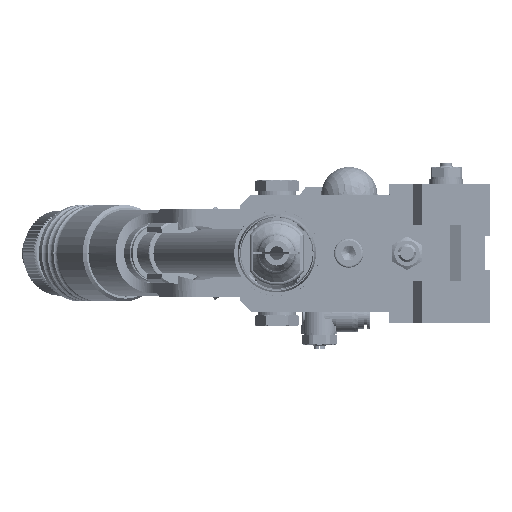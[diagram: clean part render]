
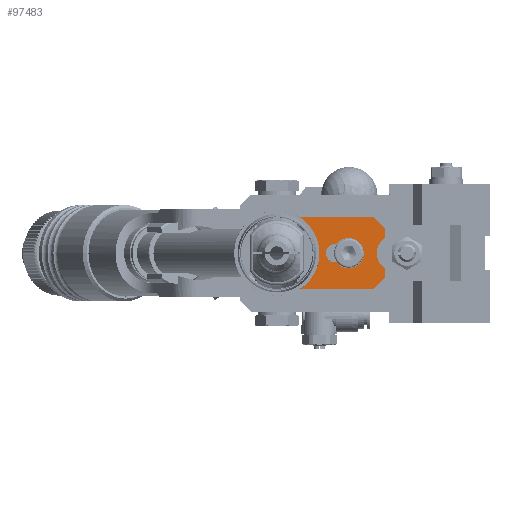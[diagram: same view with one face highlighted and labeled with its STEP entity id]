
A CAD part, left-side view. The second image highlights one B-rep face of the part: STEP entity #97483.
In plain terms, the highlighted planar face has unit normal (-1, 0, 0).
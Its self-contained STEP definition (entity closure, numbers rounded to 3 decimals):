
#4089=PLANE('',#105315);
#4994=FACE_BOUND('',#33514,.T.);
#5340=CIRCLE('',#98480,16.5);
#8481=CIRCLE('',#105295,8.);
#8483=CIRCLE('',#105299,4.1);
#8486=CIRCLE('',#105316,6.75);
#14862=LINE('',#339469,#21482);
#14867=LINE('',#339477,#21487);
#14869=LINE('',#339481,#21489);
#14872=LINE('',#339489,#21492);
#14878=LINE('',#339505,#21498);
#14880=LINE('',#339509,#21500);
#14884=LINE('',#339516,#21504);
#14889=LINE('',#339529,#21509);
#14898=LINE('',#339546,#21518);
#14901=LINE('',#339555,#21521);
#21482=VECTOR('',#126750,10.);
#21487=VECTOR('',#126757,10.);
#21489=VECTOR('',#126761,10.);
#21492=VECTOR('',#126770,10.);
#21498=VECTOR('',#126784,10.);
#21500=VECTOR('',#126788,10.);
#21504=VECTOR('',#126796,10.);
#21509=VECTOR('',#126809,10.);
#21518=VECTOR('',#126826,10.);
#21521=VECTOR('',#126839,10.);
#27960=FACE_OUTER_BOUND('',#33513,.T.);
#33513=EDGE_LOOP('',(#84470,#84471,#84472,#84473,#84474,#84475,#84476,#84477,
#84478,#84479));
#33514=EDGE_LOOP('',(#84480,#84481,#84482,#84483));
#36676=VERTEX_POINT('',#132066);
#36678=VERTEX_POINT('',#132070);
#44624=VERTEX_POINT('',#339466);
#44625=VERTEX_POINT('',#339468);
#44627=VERTEX_POINT('',#339475);
#44628=VERTEX_POINT('',#339480);
#44629=VERTEX_POINT('',#339484);
#44630=VERTEX_POINT('',#339488);
#44633=VERTEX_POINT('',#339495);
#44634=VERTEX_POINT('',#339497);
#44636=VERTEX_POINT('',#339504);
#44637=VERTEX_POINT('',#339508);
#44642=VERTEX_POINT('',#339528);
#44647=VERTEX_POINT('',#339553);
#46236=EDGE_CURVE('',#36678,#36676,#5340,.T.);
#58103=EDGE_CURVE('',#44624,#44625,#14862,.T.);
#58108=EDGE_CURVE('',#44627,#44624,#14867,.T.);
#58110=EDGE_CURVE('',#44628,#44627,#14869,.T.);
#58112=EDGE_CURVE('',#44629,#44628,#8481,.T.);
#58114=EDGE_CURVE('',#44630,#44629,#14872,.T.);
#58118=EDGE_CURVE('',#44634,#44633,#8483,.T.);
#58122=EDGE_CURVE('',#44636,#44634,#14878,.T.);
#58124=EDGE_CURVE('',#36676,#44637,#14880,.T.);
#58128=EDGE_CURVE('',#44625,#36678,#14884,.T.);
#58134=EDGE_CURVE('',#44637,#44642,#14889,.T.);
#58144=EDGE_CURVE('',#44642,#44630,#14898,.T.);
#58147=EDGE_CURVE('',#44647,#44636,#8486,.T.);
#58148=EDGE_CURVE('',#44633,#44647,#14901,.T.);
#84470=ORIENTED_EDGE('',*,*,#58124,.F.);
#84471=ORIENTED_EDGE('',*,*,#46236,.F.);
#84472=ORIENTED_EDGE('',*,*,#58128,.F.);
#84473=ORIENTED_EDGE('',*,*,#58103,.F.);
#84474=ORIENTED_EDGE('',*,*,#58108,.F.);
#84475=ORIENTED_EDGE('',*,*,#58110,.F.);
#84476=ORIENTED_EDGE('',*,*,#58112,.F.);
#84477=ORIENTED_EDGE('',*,*,#58114,.F.);
#84478=ORIENTED_EDGE('',*,*,#58144,.F.);
#84479=ORIENTED_EDGE('',*,*,#58134,.F.);
#84480=ORIENTED_EDGE('',*,*,#58147,.T.);
#84481=ORIENTED_EDGE('',*,*,#58122,.T.);
#84482=ORIENTED_EDGE('',*,*,#58118,.T.);
#84483=ORIENTED_EDGE('',*,*,#58148,.T.);
#97483=ADVANCED_FACE('',(#27960,#4994),#4089,.T.);
#98480=AXIS2_PLACEMENT_3D('',#132588,#107539,#107540);
#105295=AXIS2_PLACEMENT_3D('',#339485,#126765,#126766);
#105299=AXIS2_PLACEMENT_3D('',#339498,#126777,#126778);
#105315=AXIS2_PLACEMENT_3D('',#339552,#126835,#126836);
#105316=AXIS2_PLACEMENT_3D('',#339554,#126837,#126838);
#107539=DIRECTION('center_axis',(-1.,0.,0.));
#107540=DIRECTION('ref_axis',(0.,-0.485,-0.875));
#126750=DIRECTION('',(0.,1.,0.));
#126757=DIRECTION('',(0.,0.707,-0.707));
#126761=DIRECTION('',(0.,0.,-1.));
#126765=DIRECTION('center_axis',(-1.,0.,0.));
#126766=DIRECTION('ref_axis',(0.,0.562,0.827));
#126770=DIRECTION('',(0.,0.,-1.));
#126777=DIRECTION('center_axis',(1.,0.,0.));
#126778=DIRECTION('ref_axis',(0.,0.,
1.));
#126784=DIRECTION('',(0.,1.,0.));
#126788=DIRECTION('',(0.,0.,1.));
#126796=DIRECTION('',(0.,0.,1.));
#126809=DIRECTION('',(0.,-1.,0.));
#126826=DIRECTION('',(0.,-0.707,-0.707));
#126835=DIRECTION('center_axis',(-1.,0.,0.));
#126836=DIRECTION('ref_axis',(0.,0.,
1.));
#126837=DIRECTION('center_axis',(1.,0.,0.));
#126838=DIRECTION('ref_axis',(0.,0.,
-1.));
#126839=DIRECTION('',(0.,-1.,0.));
#132066=CARTESIAN_POINT('',(-10.,-8.,14.431));
#132070=CARTESIAN_POINT('',(-10.,-8.,-14.431));
#132588=CARTESIAN_POINT('Origin',(-10.,0.,
0.));
#339466=CARTESIAN_POINT('',(-10.,-43.,-16.));
#339468=CARTESIAN_POINT('',(-10.,-8.,-16.));
#339469=CARTESIAN_POINT('',(-10.,-43.,-16.));
#339475=CARTESIAN_POINT('',(-10.,-48.,-11.));
#339477=CARTESIAN_POINT('',(-10.,-48.,-11.));
#339480=CARTESIAN_POINT('',(-10.,-48.,-6.614));
#339481=CARTESIAN_POINT('',(-10.,-48.,-6.614));
#339484=CARTESIAN_POINT('',(-10.,-48.,6.614));
#339485=CARTESIAN_POINT('Origin',(-10.,-52.5,0.));
#339488=CARTESIAN_POINT('',(-10.,-48.,11.));
#339489=CARTESIAN_POINT('',(-10.,-48.,11.));
#339495=CARTESIAN_POINT('',(-10.,-26.,4.1));
#339497=CARTESIAN_POINT('',(-10.,-26.,-4.1));
#339498=CARTESIAN_POINT('Origin',(-10.,-26.,0.));
#339504=CARTESIAN_POINT('',(-10.,-26.638,-4.1));
#339505=CARTESIAN_POINT('',(-10.,-29.787,-4.1));
#339508=CARTESIAN_POINT('',(-10.,-8.,16.));
#339509=CARTESIAN_POINT('',(-10.,-8.,14.431));
#339516=CARTESIAN_POINT('',(-10.,-8.,-16.));
#339528=CARTESIAN_POINT('',(-10.,-43.,16.));
#339529=CARTESIAN_POINT('',(-10.,-8.,16.));
#339546=CARTESIAN_POINT('',(-10.,-43.,16.));
#339552=CARTESIAN_POINT('Origin',(-10.,-27.575,0.));
#339553=CARTESIAN_POINT('',(-10.,-26.638,4.1));
#339554=CARTESIAN_POINT('Origin',(-10.,-32.,0.));
#339555=CARTESIAN_POINT('',(-10.,-26.787,4.1));
